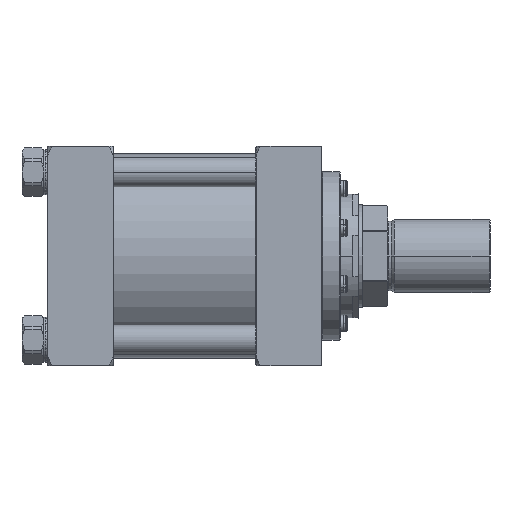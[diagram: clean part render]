
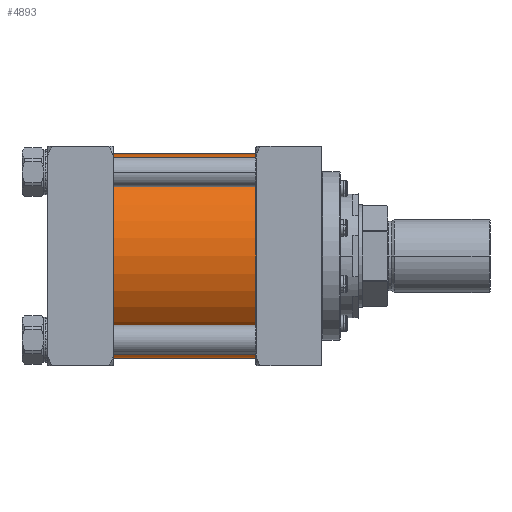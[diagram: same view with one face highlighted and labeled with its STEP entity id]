
A CAD part, front view. The second image highlights one B-rep face of the part: STEP entity #4893.
In plain terms, the highlighted cylindrical face has radius 88.9 mm (diameter 177.8 mm), a partial arc.
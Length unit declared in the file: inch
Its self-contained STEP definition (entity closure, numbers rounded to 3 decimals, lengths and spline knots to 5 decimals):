
#1402 = CARTESIAN_POINT ( 'NONE',  ( -9.625, 0., 0. ) ) ;
#4450 = DIRECTION ( 'NONE',  ( 1., 0., 0. ) ) ;
#4893 = ADVANCED_FACE ( 'NONE', ( #51883 ), #15097, .T. ) ;
#5804 = DIRECTION ( 'NONE',  ( 1., 0., 0. ) ) ;
#6523 = CARTESIAN_POINT ( 'NONE',  ( -9.625, 0., -3.5 ) ) ;
#7723 = CIRCLE ( 'NONE', #53937, 3.5 ) ;
#12335 = EDGE_CURVE ( 'NONE', #72006, #75421, #17688, .T. ) ;
#15097 = CYLINDRICAL_SURFACE ( 'NONE', #48921, 3.5 ) ;
#17688 = LINE ( 'NONE', #42917, #58465 ) ;
#20442 = AXIS2_PLACEMENT_3D ( 'NONE', #72446, #72867, #47599 ) ;
#22391 = CARTESIAN_POINT ( 'NONE',  ( -9.625, 0., 3.5 ) ) ;
#24064 = EDGE_CURVE ( 'NONE', #72006, #57368, #7723, .T. ) ;
#28784 = EDGE_CURVE ( 'NONE', #57368, #65705, #51258, .T. ) ;
#29468 = CARTESIAN_POINT ( 'NONE',  ( -9.625, 0., 0. ) ) ;
#31031 = CIRCLE ( 'NONE', #20442, 3.5 ) ;
#33358 = DIRECTION ( 'NONE',  ( 0., 0., -1. ) ) ;
#41367 = ORIENTED_EDGE ( 'NONE', *, *, #24064, .T. ) ;
#42248 = DIRECTION ( 'NONE',  ( 1., 0., 0. ) ) ;
#42870 = CARTESIAN_POINT ( 'NONE',  ( -4.25, 0., -3.5 ) ) ;
#42917 = CARTESIAN_POINT ( 'NONE',  ( -9.625, 0., 3.5 ) ) ;
#43841 = ORIENTED_EDGE ( 'NONE', *, *, #49895, .F. ) ;
#45288 = DIRECTION ( 'NONE',  ( 1., 0., 0. ) ) ;
#47599 = DIRECTION ( 'NONE',  ( 0., 1., 0. ) ) ;
#48805 = VECTOR ( 'NONE', #5804, 39.37008 ) ;
#48921 = AXIS2_PLACEMENT_3D ( 'NONE', #1402, #45288, #33358 ) ;
#49819 = ORIENTED_EDGE ( 'NONE', *, *, #28784, .T. ) ;
#49895 = EDGE_CURVE ( 'NONE', #75421, #65705, #31031, .T. ) ;
#51258 = LINE ( 'NONE', #63281, #48805 ) ;
#51883 = FACE_OUTER_BOUND ( 'NONE', #55083, .T. ) ;
#53937 = AXIS2_PLACEMENT_3D ( 'NONE', #29468, #42248, #72891 ) ;
#55083 = EDGE_LOOP ( 'NONE', ( #66291, #41367, #49819, #43841 ) ) ;
#57368 = VERTEX_POINT ( 'NONE', #6523 ) ;
#58465 = VECTOR ( 'NONE', #4450, 39.37008 ) ;
#60847 = CARTESIAN_POINT ( 'NONE',  ( -4.25, 0., 3.5 ) ) ;
#63281 = CARTESIAN_POINT ( 'NONE',  ( -9.625, 0., -3.5 ) ) ;
#65705 = VERTEX_POINT ( 'NONE', #42870 ) ;
#66291 = ORIENTED_EDGE ( 'NONE', *, *, #12335, .F. ) ;
#72006 = VERTEX_POINT ( 'NONE', #22391 ) ;
#72446 = CARTESIAN_POINT ( 'NONE',  ( -4.25, 0., 0. ) ) ;
#72867 = DIRECTION ( 'NONE',  ( 1., 0., 0. ) ) ;
#72891 = DIRECTION ( 'NONE',  ( 0., 1., 0. ) ) ;
#75421 = VERTEX_POINT ( 'NONE', #60847 ) ;
